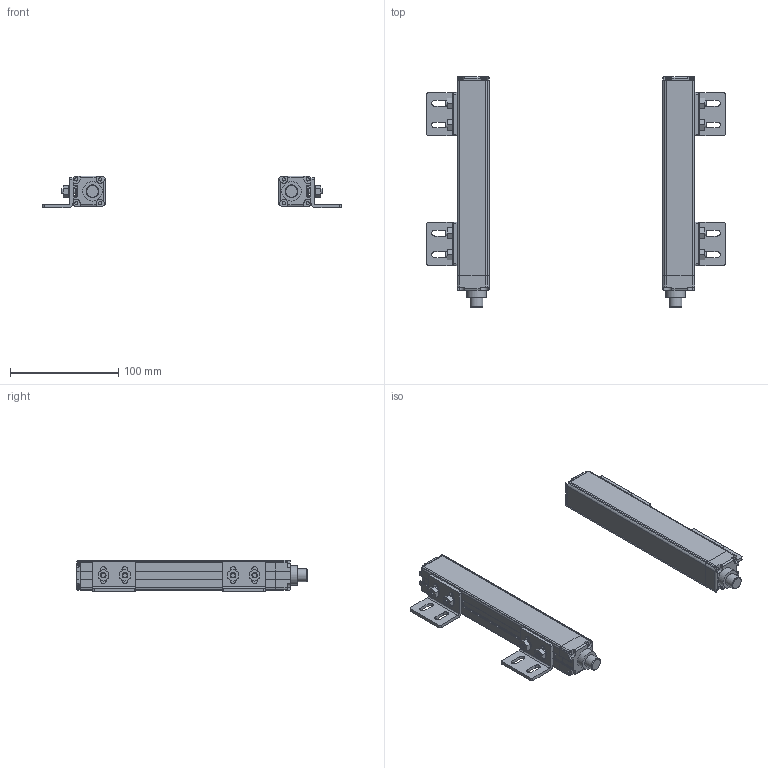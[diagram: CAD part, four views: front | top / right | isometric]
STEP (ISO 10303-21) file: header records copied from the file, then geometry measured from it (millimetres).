
FILE_DESCRIPTION( ( 'STEP AP203' ), '1' );
FILE_NAME( 'p:/temp/worker_23/3656_3564/app_56_02015061609383449960877192d056f_00_00_00_000/STEP/OY001S_2_03.stp', ' ', ( ' ' ), ( ' ' ), 'PSStep 15.0.47', 'PARTsolutions', ' ' );
FILE_SCHEMA( ( 'CONFIG_CONTROL_DESIGN' ) );
Length unit declared in the file: millimetre
Products named in the file (3): OY001S; _OY001S_part1; _OY001S_part2
Assembly tree (6 placements, depth 2):
  OY001S
    _OY001S_part1  x2
    _OY001S_part2  x4
Bounding box: 276 x 213 x 29.34 mm (x, y, z)
Volume: 346205.7 mm3; surface area: 80779.3 mm2
Topology: 6 solids, 6 shells, 786 faces, 2112 edges, 1394 vertices
Faces by surface type: plane 444, cylinder 324, cone 10, torus 8
Full cylindrical faces by diameter (mm): 2.5 x8, 3 x8, 5 x32, 8.9 x8, 12 x2, 18 x2
Entity records: 10306 total; most frequent: CARTESIAN_POINT 1834, DIRECTION 1788, ORIENTED_EDGE 1690, EDGE_CURVE 845, AXIS2_PLACEMENT_3D 619, VERTEX_POINT 577, LINE 550, VECTOR 550
